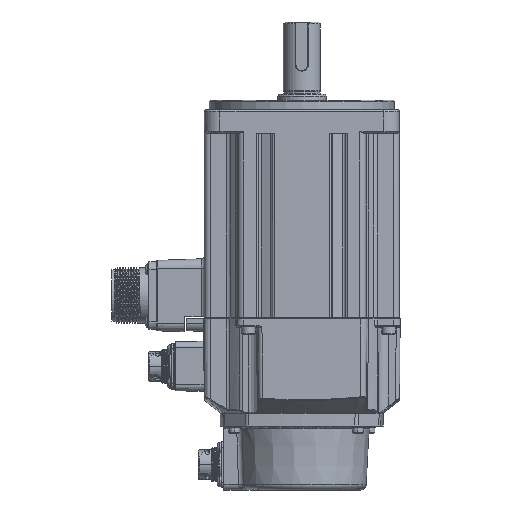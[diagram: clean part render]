
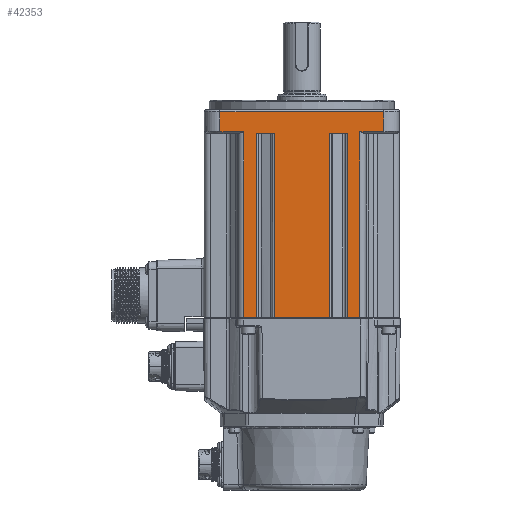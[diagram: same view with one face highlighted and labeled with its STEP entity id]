
A CAD part, left-side view. The second image highlights one B-rep face of the part: STEP entity #42353.
In plain terms, the highlighted planar face has unit normal (-1, 0, 0).
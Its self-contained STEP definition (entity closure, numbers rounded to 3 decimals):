
#4330=DIRECTION('',(0.,-1.,0.));
#4331=VECTOR('',#4330,28.4);
#4332=CARTESIAN_POINT('',(-50.,14.2,-45.2));
#4333=LINE('',#4332,#4331);
#4363=DIRECTION('',(0.,-1.,0.));
#4364=VECTOR('',#4363,6.452);
#4365=CARTESIAN_POINT('',(-50.,-23.3,-45.2));
#4366=LINE('',#4365,#4364);
#4651=DIRECTION('',(0.,-1.,0.));
#4652=VECTOR('',#4651,6.452);
#4653=CARTESIAN_POINT('',(-50.,29.752,-45.2));
#4654=LINE('',#4653,#4652);
#4959=DIRECTION('',(0.,0.,1.));
#4960=VECTOR('',#4959,94.4);
#4961=CARTESIAN_POINT('',(-50.,23.3,-45.2));
#4962=LINE('',#4961,#4960);
#5010=DIRECTION('',(0.,1.,0.017));
#5011=VECTOR('',#5010,12.25);
#5012=CARTESIAN_POINT('',(-50.,29.752,49.847));
#5013=LINE('',#5012,#5011);
#5014=DIRECTION('',(0.,0.,1.));
#5015=VECTOR('',#5014,10.139);
#5016=CARTESIAN_POINT('',(-50.,42.,50.061));
#5017=LINE('',#5016,#5015);
#5018=DIRECTION('',(0.,1.,-0.017));
#5019=VECTOR('',#5018,12.25);
#5020=CARTESIAN_POINT('',(-50.,-42.,
50.061));
#5021=LINE('',#5020,#5019);
#5022=DIRECTION('',(0.,1.,0.));
#5023=VECTOR('',#5022,9.1);
#5024=CARTESIAN_POINT('',(-50.,-23.3,49.2));
#5025=LINE('',#5024,#5023);
#5026=DIRECTION('',(0.,1.,0.));
#5027=VECTOR('',#5026,9.1);
#5028=CARTESIAN_POINT('',(-50.,14.2,49.2));
#5029=LINE('',#5028,#5027);
#5746=DIRECTION('',(0.,0.,1.));
#5747=VECTOR('',#5746,10.139);
#5748=CARTESIAN_POINT('',(-50.,-42.,
50.061));
#5749=LINE('',#5748,#5747);
#5894=DIRECTION('',(0.,1.,0.));
#5895=VECTOR('',#5894,84.);
#5896=CARTESIAN_POINT('',(-50.,-42.,
60.2));
#5897=LINE('',#5896,#5895);
#7982=DIRECTION('',(0.,0.,1.));
#7983=VECTOR('',#7982,95.047);
#7984=CARTESIAN_POINT('',(-50.,-29.752,-45.2));
#7985=LINE('',#7984,#7983);
#8046=DIRECTION('',(0.,0.,-1.));
#8047=VECTOR('',#8046,95.047);
#8048=CARTESIAN_POINT('',(-50.,29.752,49.847));
#8049=LINE('',#8048,#8047);
#22511=DIRECTION('',(0.,0.,-1.));
#22512=VECTOR('',#22511,94.4);
#22513=CARTESIAN_POINT('',(-50.,-23.3,49.2));
#22514=LINE('',#22513,#22512);
#22574=DIRECTION('',(0.,0.,1.));
#22575=VECTOR('',#22574,94.4);
#22576=CARTESIAN_POINT('',(-50.,-14.2,-45.2));
#22577=LINE('',#22576,#22575);
#22594=DIRECTION('',(0.,0.,-1.));
#22595=VECTOR('',#22594,94.4);
#22596=CARTESIAN_POINT('',(-50.,14.2,49.2));
#22597=LINE('',#22596,#22595);
#28602=CARTESIAN_POINT('',(-50.,23.3,-45.2));
#28604=VERTEX_POINT('',#28602);
#28616=CARTESIAN_POINT('',(-50.,14.2,-45.2));
#28617=VERTEX_POINT('',#28616);
#28618=CARTESIAN_POINT('',(-50.,-14.2,-45.2));
#28619=VERTEX_POINT('',#28618);
#28632=CARTESIAN_POINT('',(-50.,-23.3,-45.2));
#28633=VERTEX_POINT('',#28632);
#28634=CARTESIAN_POINT('',(-50.,-29.752,-45.2));
#28635=VERTEX_POINT('',#28634);
#28760=CARTESIAN_POINT('',(-50.,29.752,-45.2));
#28761=VERTEX_POINT('',#28760);
#28952=CARTESIAN_POINT('',(-50.,23.3,49.2));
#28953=VERTEX_POINT('',#28952);
#28956=CARTESIAN_POINT('',(-50.,14.2,49.2));
#28957=VERTEX_POINT('',#28956);
#28963=CARTESIAN_POINT('',(-50.,29.752,49.847));
#28964=CARTESIAN_POINT('',(-50.,42.,
50.061));
#28965=VERTEX_POINT('',#28963);
#28966=VERTEX_POINT('',#28964);
#28967=CARTESIAN_POINT('',(-50.,42.,
60.2));
#28968=VERTEX_POINT('',#28967);
#28969=CARTESIAN_POINT('',(-50.,-42.,
60.2));
#28970=VERTEX_POINT('',#28969);
#28971=CARTESIAN_POINT('',(-50.,-42.,
50.061));
#28972=VERTEX_POINT('',#28971);
#28973=CARTESIAN_POINT('',(-50.,-29.752,
49.847));
#28974=VERTEX_POINT('',#28973);
#28975=CARTESIAN_POINT('',(-50.,-23.3,49.2));
#28976=VERTEX_POINT('',#28975);
#28977=CARTESIAN_POINT('',(-50.,-14.2,49.2));
#28978=VERTEX_POINT('',#28977);
#42319=CARTESIAN_POINT('',(-50.,42.,61.2));
#42320=DIRECTION('',(-1.,0.,0.));
#42321=DIRECTION('',(0.,-1.,0.));
#42322=AXIS2_PLACEMENT_3D('',#42319,#42320,#42321);
#42323=PLANE('',#42322);
#42325=ORIENTED_EDGE('',*,*,#42324,.T.);
#42327=ORIENTED_EDGE('',*,*,#42326,.T.);
#42329=ORIENTED_EDGE('',*,*,#42328,.F.);
#42331=ORIENTED_EDGE('',*,*,#42330,.F.);
#42333=ORIENTED_EDGE('',*,*,#42332,.T.);
#42335=ORIENTED_EDGE('',*,*,#42334,.F.);
#42336=ORIENTED_EDGE('',*,*,#41942,.F.);
#42338=ORIENTED_EDGE('',*,*,#42337,.F.);
#42340=ORIENTED_EDGE('',*,*,#42339,.T.);
#42342=ORIENTED_EDGE('',*,*,#42341,.F.);
#42343=ORIENTED_EDGE('',*,*,#41926,.F.);
#42345=ORIENTED_EDGE('',*,*,#42344,.F.);
#42346=ORIENTED_EDGE('',*,*,#42302,.T.);
#42347=ORIENTED_EDGE('',*,*,#42276,.F.);
#42348=ORIENTED_EDGE('',*,*,#42070,.F.);
#42350=ORIENTED_EDGE('',*,*,#42349,.F.);
#42351=EDGE_LOOP('',(#42325,#42327,#42329,#42331,#42333,#42335,#42336,#42338,
#42340,#42342,#42343,#42345,#42346,#42347,#42348,#42350));
#42352=FACE_OUTER_BOUND('',#42351,.F.);
#41926=EDGE_CURVE('',#28617,#28619,#4333,.T.);
#41942=EDGE_CURVE('',#28633,#28635,#4366,.T.);
#42070=EDGE_CURVE('',#28761,#28604,#4654,.T.);
#42276=EDGE_CURVE('',#28604,#28953,#4962,.T.);
#42302=EDGE_CURVE('',#28957,#28953,#5029,.T.);
#42324=EDGE_CURVE('',#28965,#28966,#5013,.T.);
#42326=EDGE_CURVE('',#28966,#28968,#5017,.T.);
#42328=EDGE_CURVE('',#28970,#28968,#5897,.T.);
#42330=EDGE_CURVE('',#28972,#28970,#5749,.T.);
#42332=EDGE_CURVE('',#28972,#28974,#5021,.T.);
#42334=EDGE_CURVE('',#28635,#28974,#7985,.T.);
#42337=EDGE_CURVE('',#28976,#28633,#22514,.T.);
#42339=EDGE_CURVE('',#28976,#28978,#5025,.T.);
#42341=EDGE_CURVE('',#28619,#28978,#22577,.T.);
#42344=EDGE_CURVE('',#28957,#28617,#22597,.T.);
#42349=EDGE_CURVE('',#28965,#28761,#8049,.T.);
#42353=ADVANCED_FACE('',(#42352),#42323,.T.);
